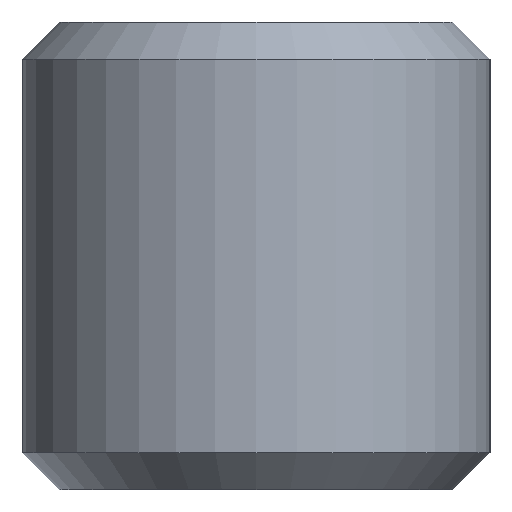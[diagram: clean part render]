
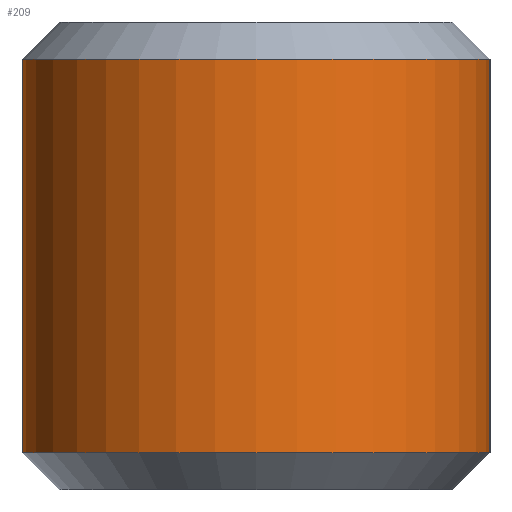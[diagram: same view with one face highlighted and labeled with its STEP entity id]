
A CAD part, left-side view. The second image highlights one B-rep face of the part: STEP entity #209.
In plain terms, the highlighted cylindrical face has radius 2.5 mm (diameter 5 mm), a partial arc.
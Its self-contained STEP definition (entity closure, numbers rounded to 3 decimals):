
#15=CYLINDRICAL_SURFACE('',#250,2.5);
#20=CIRCLE('',#248,2.5);
#21=CIRCLE('',#251,2.5);
#33=FACE_OUTER_BOUND('',#47,.T.);
#47=EDGE_LOOP('',(#157,#158,#159,#160));
#65=LINE('',#357,#85);
#66=LINE('',#360,#86);
#85=VECTOR('',#292,10.);
#86=VECTOR('',#295,10.);
#99=VERTEX_POINT('',#335);
#103=VERTEX_POINT('',#347);
#105=VERTEX_POINT('',#356);
#106=VERTEX_POINT('',#358);
#122=EDGE_CURVE('',#99,#103,#20,.T.);
#125=EDGE_CURVE('',#105,#99,#65,.T.);
#126=EDGE_CURVE('',#106,#105,#21,.T.);
#127=EDGE_CURVE('',#103,#106,#66,.T.);
#157=ORIENTED_EDGE('',*,*,#122,.F.);
#158=ORIENTED_EDGE('',*,*,#125,.F.);
#159=ORIENTED_EDGE('',*,*,#126,.F.);
#160=ORIENTED_EDGE('',*,*,#127,.F.);
#209=ADVANCED_FACE('',(#33),#15,.T.);
#248=AXIS2_PLACEMENT_3D('',#351,#284,#285);
#250=AXIS2_PLACEMENT_3D('',#355,#290,#291);
#251=AXIS2_PLACEMENT_3D('',#359,#293,#294);
#284=DIRECTION('center_axis',(0.,0.,-1.));
#285=DIRECTION('ref_axis',(0.,-1.,0.));
#290=DIRECTION('center_axis',(0.,0.,-1.));
#291=DIRECTION('ref_axis',(0.,-1.,0.));
#292=DIRECTION('',(0.,0.,-1.));
#293=DIRECTION('center_axis',(0.,0.,1.));
#294=DIRECTION('ref_axis',(0.,-1.,0.));
#295=DIRECTION('',(0.,0.,1.));
#335=CARTESIAN_POINT('',(2.5,-2.5,-2.6));
#347=CARTESIAN_POINT('',(2.5,2.5,-2.6));
#351=CARTESIAN_POINT('Origin',(2.5,0.,-2.6));
#355=CARTESIAN_POINT('Origin',(2.5,0.,0.));
#356=CARTESIAN_POINT('',(2.5,-2.5,1.6));
#357=CARTESIAN_POINT('',(2.5,-2.5,0.));
#358=CARTESIAN_POINT('',(2.5,2.5,1.6));
#359=CARTESIAN_POINT('Origin',(2.5,0.,1.6));
#360=CARTESIAN_POINT('',(2.5,2.5,0.));
